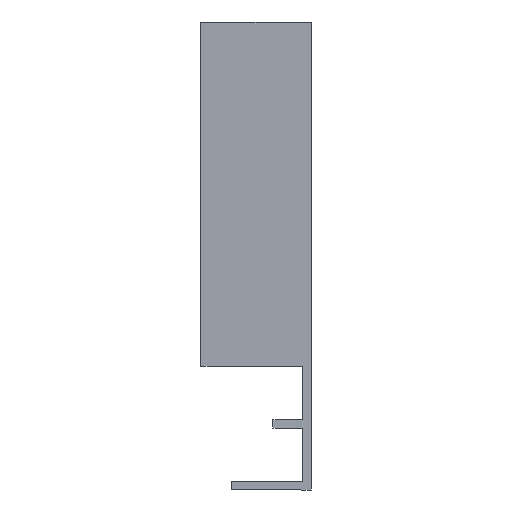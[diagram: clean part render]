
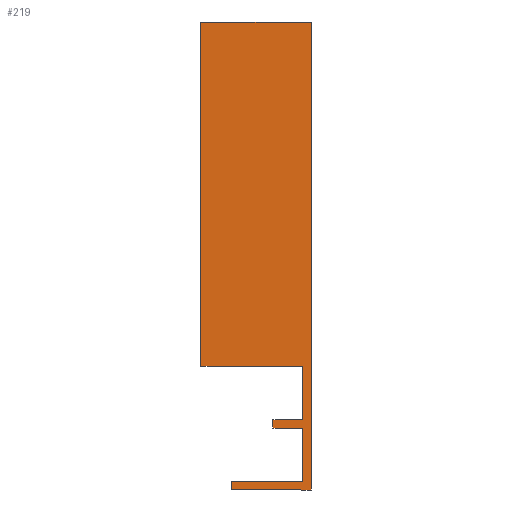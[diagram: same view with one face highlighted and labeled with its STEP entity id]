
A CAD part, left-side view. The second image highlights one B-rep face of the part: STEP entity #219.
In plain terms, the highlighted planar face has unit normal (-1, 0, 0).
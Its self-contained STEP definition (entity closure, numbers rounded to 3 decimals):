
#1 = CARTESIAN_POINT ( 'NONE',  ( -236.5, -5.5, -17.9 ) ) ;
#7 = CARTESIAN_POINT ( 'NONE',  ( -236.5, -5.5, 49.7 ) ) ;
#8 = CARTESIAN_POINT ( 'NONE',  ( -236.5, -4.3, -8.95 ) ) ;
#10 = CARTESIAN_POINT ( 'NONE',  ( -236.5, 6., -17.9 ) ) ;
#11 = VERTEX_POINT ( 'NONE', #7 ) ;
#13 = VERTEX_POINT ( 'NONE', #1 ) ;
#15 = VERTEX_POINT ( 'NONE', #10 ) ;
#17 = VERTEX_POINT ( 'NONE', #8 ) ;
#19 = VERTEX_POINT ( 'NONE', #42 ) ;
#22 = VERTEX_POINT ( 'NONE', #45 ) ;
#24 = VERTEX_POINT ( 'NONE', #47 ) ;
#25 = VERTEX_POINT ( 'NONE', #48 ) ;
#26 = VERTEX_POINT ( 'NONE', #49 ) ;
#32 = VERTEX_POINT ( 'NONE', #55 ) ;
#35 = VERTEX_POINT ( 'NONE', #66 ) ;
#38 = VERTEX_POINT ( 'NONE', #69 ) ;
#42 = CARTESIAN_POINT ( 'NONE',  ( -236.5, 0., -8.95 ) ) ;
#45 = CARTESIAN_POINT ( 'NONE',  ( -236.5, -4.3, -7.75 ) ) ;
#47 = CARTESIAN_POINT ( 'NONE',  ( -236.5, -4.3, 0. ) ) ;
#48 = CARTESIAN_POINT ( 'NONE',  ( -236.5, 10.4, 0. ) ) ;
#49 = CARTESIAN_POINT ( 'NONE',  ( -236.5, 6., -16.7 ) ) ;
#55 = CARTESIAN_POINT ( 'NONE',  ( -236.5, -4.3, -16.7 ) ) ;
#66 = CARTESIAN_POINT ( 'NONE',  ( -236.5, 0., -7.75 ) ) ;
#69 = CARTESIAN_POINT ( 'NONE',  ( -236.5, 10.4, 49.7 ) ) ;
#88 = PLANE ( 'NONE',  #261 ) ;
#91 = CARTESIAN_POINT ( 'NONE',  ( -236.5, 6., -16.7 ) ) ;
#97 = DIRECTION ( 'NONE',  ( -1., 0., 0. ) ) ;
#98 = DIRECTION ( 'NONE',  ( 0., -1., 0. ) ) ;
#139 = CARTESIAN_POINT ( 'NONE',  ( -236.5, 0., -8.95 ) ) ;
#142 = DIRECTION ( 'NONE',  ( 0., -1., 0. ) ) ;
#159 = CARTESIAN_POINT ( 'NONE',  ( -236.5, 10.4, 49.7 ) ) ;
#163 = CARTESIAN_POINT ( 'NONE',  ( -236.5, -4.3, -16.7 ) ) ;
#164 = DIRECTION ( 'NONE',  ( 0., 0., -1. ) ) ;
#168 = DIRECTION ( 'NONE',  ( 0., 1., 0. ) ) ;
#169 = CARTESIAN_POINT ( 'NONE',  ( -236.5, -4.3, 0. ) ) ;
#170 = DIRECTION ( 'NONE',  ( 0., 0., -1. ) ) ;
#171 = CARTESIAN_POINT ( 'NONE',  ( -236.5, -4.3, -8.95 ) ) ;
#172 = DIRECTION ( 'NONE',  ( 0., 0., -1. ) ) ;
#173 = CARTESIAN_POINT ( 'NONE',  ( -236.5, 6., -16.7 ) ) ;
#174 = DIRECTION ( 'NONE',  ( 0., 0., -1. ) ) ;
#184 = CARTESIAN_POINT ( 'NONE',  ( -236.5, 6., -17.9 ) ) ;
#185 = DIRECTION ( 'NONE',  ( 0., -1., 0. ) ) ;
#186 = CARTESIAN_POINT ( 'NONE',  ( -236.5, 10.4, 0. ) ) ;
#187 = DIRECTION ( 'NONE',  ( 0., -1., 0. ) ) ;
#190 = CARTESIAN_POINT ( 'NONE',  ( -236.5, -4.3, -7.75 ) ) ;
#191 = DIRECTION ( 'NONE',  ( 0., 1., 0. ) ) ;
#198 = CARTESIAN_POINT ( 'NONE',  ( -236.5, -5.5, -17.9 ) ) ;
#199 = DIRECTION ( 'NONE',  ( 0., 0., 1. ) ) ;
#200 = CARTESIAN_POINT ( 'NONE',  ( -236.5, -5.5, 49.7 ) ) ;
#201 = DIRECTION ( 'NONE',  ( 0., 1., 0. ) ) ;
#204 = CARTESIAN_POINT ( 'NONE',  ( -236.5, 0., -7.75 ) ) ;
#205 = DIRECTION ( 'NONE',  ( 0., 0., -1. ) ) ;
#219 = ADVANCED_FACE ( 'NONE', ( #319 ), #88, .T. ) ;
#238 = EDGE_CURVE ( 'NONE', #19, #17, #446, .T. ) ;
#249 = EDGE_CURVE ( 'NONE', #38, #25, #456, .T. ) ;
#251 = EDGE_CURVE ( 'NONE', #32, #26, #458, .T. ) ;
#253 = EDGE_CURVE ( 'NONE', #24, #22, #468, .T. ) ;
#255 = EDGE_CURVE ( 'NONE', #17, #32, #470, .T. ) ;
#261 = AXIS2_PLACEMENT_3D ( 'NONE', #91, #97, #98 ) ;
#267 = EDGE_CURVE ( 'NONE', #26, #15, #472, .T. ) ;
#273 = EDGE_CURVE ( 'NONE', #15, #13, #484, .T. ) ;
#274 = EDGE_CURVE ( 'NONE', #25, #24, #486, .T. ) ;
#276 = EDGE_CURVE ( 'NONE', #22, #35, #490, .T. ) ;
#286 = EDGE_CURVE ( 'NONE', #13, #11, #477, .T. ) ;
#287 = EDGE_CURVE ( 'NONE', #11, #38, #497, .T. ) ;
#289 = EDGE_CURVE ( 'NONE', #35, #19, #501, .T. ) ;
#319 = FACE_OUTER_BOUND ( 'NONE', #385, .T. ) ;
#385 = EDGE_LOOP ( 'NONE', ( #423, #424, #425, #426, #427, #410, #409, #408, #407, #391, #390, #389 ) ) ;
#389 = ORIENTED_EDGE ( 'NONE', *, *, #255, .T. ) ;
#390 = ORIENTED_EDGE ( 'NONE', *, *, #238, .T. ) ;
#391 = ORIENTED_EDGE ( 'NONE', *, *, #289, .T. ) ;
#407 = ORIENTED_EDGE ( 'NONE', *, *, #276, .T. ) ;
#408 = ORIENTED_EDGE ( 'NONE', *, *, #253, .T. ) ;
#409 = ORIENTED_EDGE ( 'NONE', *, *, #274, .T. ) ;
#410 = ORIENTED_EDGE ( 'NONE', *, *, #249, .T. ) ;
#423 = ORIENTED_EDGE ( 'NONE', *, *, #251, .T. ) ;
#424 = ORIENTED_EDGE ( 'NONE', *, *, #267, .T. ) ;
#425 = ORIENTED_EDGE ( 'NONE', *, *, #273, .T. ) ;
#426 = ORIENTED_EDGE ( 'NONE', *, *, #286, .T. ) ;
#427 = ORIENTED_EDGE ( 'NONE', *, *, #287, .T. ) ;
#440 = VECTOR ( 'NONE', #142, 1000. ) ;
#446 = LINE ( 'NONE', #139, #440 ) ;
#456 = LINE ( 'NONE', #159, #463 ) ;
#458 = LINE ( 'NONE', #163, #466 ) ;
#463 = VECTOR ( 'NONE', #164, 1000. ) ;
#466 = VECTOR ( 'NONE', #168, 1000. ) ;
#467 = VECTOR ( 'NONE', #199, 1000. ) ;
#468 = LINE ( 'NONE', #169, #469 ) ;
#469 = VECTOR ( 'NONE', #170, 1000. ) ;
#470 = LINE ( 'NONE', #171, #471 ) ;
#471 = VECTOR ( 'NONE', #172, 1000. ) ;
#472 = LINE ( 'NONE', #173, #473 ) ;
#473 = VECTOR ( 'NONE', #174, 1000. ) ;
#477 = LINE ( 'NONE', #198, #467 ) ;
#484 = LINE ( 'NONE', #184, #485 ) ;
#485 = VECTOR ( 'NONE', #185, 1000. ) ;
#486 = LINE ( 'NONE', #186, #487 ) ;
#487 = VECTOR ( 'NONE', #187, 1000. ) ;
#490 = LINE ( 'NONE', #190, #491 ) ;
#491 = VECTOR ( 'NONE', #191, 1000. ) ;
#497 = LINE ( 'NONE', #200, #498 ) ;
#498 = VECTOR ( 'NONE', #201, 1000. ) ;
#501 = LINE ( 'NONE', #204, #502 ) ;
#502 = VECTOR ( 'NONE', #205, 1000. ) ;
